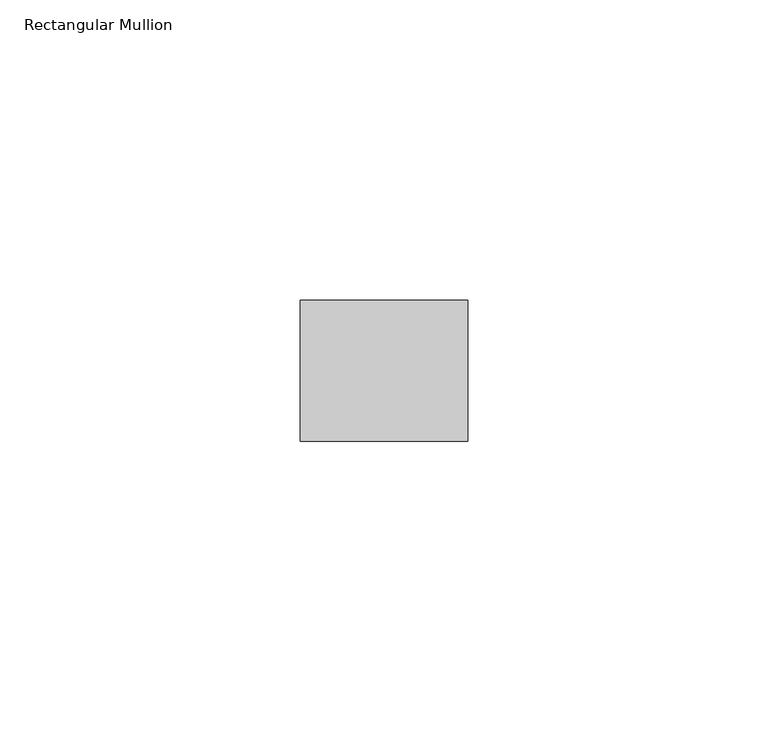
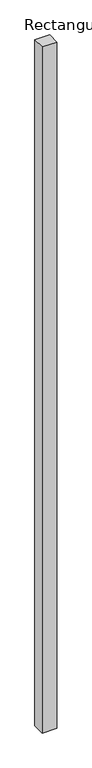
"""IFC4 building model written with IfcOpenShell, lengths in millimetres: member geometry, Rectangular Mullion : Lite Scale Glasing - Base Trim."""

from ifc_helpers import new_model, si_unit, frame, origin, place, context, project, spatial, polyline, outline, extrude, source, transform, mapped, element, save


def rectangular_mullion_c1dfd97e(model_context):
    return source(origin(), model_context, "Body", "SweptSolid", [
        extrude(outline(polyline([(0.0, -11.7474999), (-27.94, -11.7474999), (-27.94, 11.7474999), (0.0, 11.7474999), (0.0, -11.7474999)])), frame((0.0, 0.0, -1371.6), z_axis=(0.0, 0.0, 1.0), x_axis=(1.0, 0.0, 0.0)), (0.0, 0.0, 1.0), 1371.6),
    ])


if __name__ == "__main__":
    model = new_model("IFC4")
    model_context = context("Model", 3, world=origin())
    ifc_project = project(units=[si_unit("LENGTHUNIT", "METRE", prefix="MILLI")], contexts=[model_context])
    site = spatial("IfcSite", under=ifc_project)
    building = spatial("IfcBuilding", under=site)
    placement = place(None, origin())
    rectangular_mullion_shape = rectangular_mullion_c1dfd97e(model_context)
    element("IfcMember", 1, ObjectType="Rectangular Mullion : Lite Scale Glasing - Base Trim", at=placement, inside=building, context=model_context, shape_type="MappedRepresentation", body=[
        mapped(rectangular_mullion_shape, transform((0.0, 0.0, 0.0), x_axis=(1.0, 0.0, 0.0), y_axis=(0.0, 1.0, 0.0), z_axis=(0.0, 0.0, 1.0))),
    ])
    save(model, "model.ifc")
